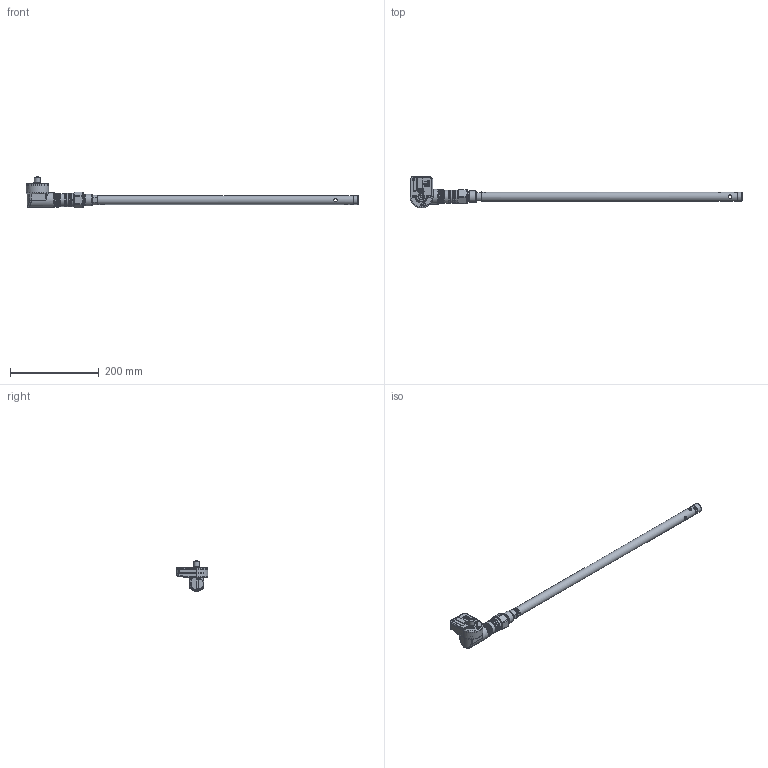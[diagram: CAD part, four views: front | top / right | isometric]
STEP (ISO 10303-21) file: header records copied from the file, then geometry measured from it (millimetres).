
FILE_DESCRIPTION(/* description */ (''),/* implementation_level */ '2;1');
FILE_NAME(/* name */ 'R:\Mekanisk design\HBLT-A3\5. STEP files\HBLT-A3-6-6.stp',/* time_stamp */ '2023-01-10T15:01:34+01:00',/* author */ ('ma'),/* organization */ (''),/* preprocessor_version */ 'ST-DEVELOPER v18.1',/* originating_system */ 'Autodesk Inventor 2021',/* authorisation */ '');
FILE_SCHEMA (('AUTOMOTIVE_DESIGN { 1 0 10303 214 3 1 1 }'));
Products named in the file (1): HBLT-A3-BSPP-Komp-R1_Shrinkwrap_2
Bounding box: 748.3 x 72 x 71.99 mm (x, y, z)
Volume: 122525.9 mm3; surface area: 145771.6 mm2
Topology: 12 solids, 12 shells, 1439 faces, 3597 edges, 2281 vertices
Faces by surface type: plane 745, cylinder 278, bspline 201, cone 164, torus 43, sphere 8
Full cylindrical faces by diameter (mm): 0.5 x2, 3 x3, 3.2 x1, 3.6 x3, 4 x18, 4.2 x1, 4.7 x1, 5 x2, 6.647 x1, 8 x4, 8.5 x1, 10 x4, 10.1 x1, 10.4 x1, 10.917 x1, 12 x1, 12.5 x2, 13 x1, 15.5 x1, 17.9 x2, 18 x3, 19 x2, 20 x5, 22 x1, 23.8 x1, 24 x4, 25 x1, 25.376 x1, 25.4 x1, 26 x2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
Entity records: 52781 total; most frequent: CARTESIAN_POINT 18829, ORIENTED_EDGE 7186, DIRECTION 6036, EDGE_CURVE 3593, VERTEX_POINT 2281, AXIS2_PLACEMENT_3D 2070, LINE 1896, VECTOR 1896
